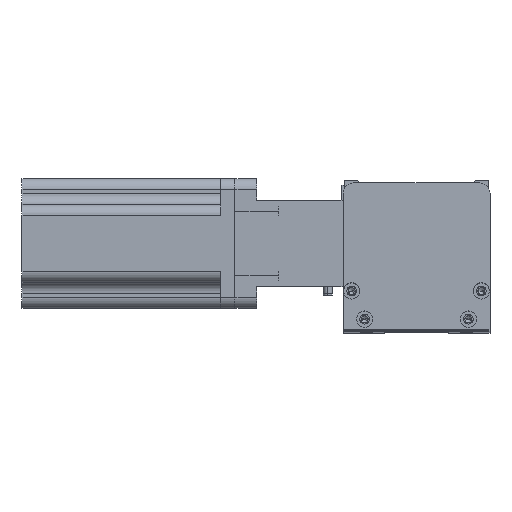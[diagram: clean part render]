
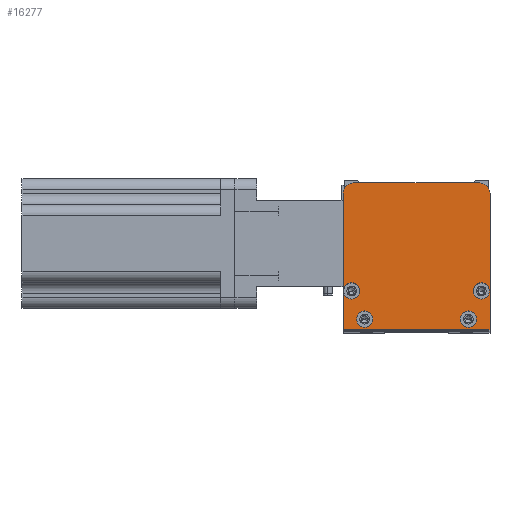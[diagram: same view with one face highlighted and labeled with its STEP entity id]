
A CAD part, top view. The second image highlights one B-rep face of the part: STEP entity #16277.
In plain terms, the highlighted planar face has unit normal (0, 0, 1) as drawn and (0, 0, -1) by its records, which use the part's own axes.
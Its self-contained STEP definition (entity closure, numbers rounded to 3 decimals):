
#8 = CARTESIAN_POINT ( 'NONE',  ( 4., 18., 0. ) ) ;
#253 = AXIS2_PLACEMENT_3D ( 'NONE', #4149, #19146, #6278 ) ;
#714 = EDGE_LOOP ( 'NONE', ( #2792, #15376 ) ) ;
#778 = EDGE_CURVE ( 'NONE', #7678, #22220, #8535, .T. ) ;
#788 = AXIS2_PLACEMENT_3D ( 'NONE', #27042, #13988, #1309 ) ;
#813 = CARTESIAN_POINT ( 'NONE',  ( 0., 0., 0. ) ) ;
#1039 = VERTEX_POINT ( 'NONE', #5300 ) ;
#1163 = EDGE_CURVE ( 'NONE', #13984, #2802, #1312, .T. ) ;
#1167 = DIRECTION ( 'NONE',  ( -1., 0., 0. ) ) ;
#1309 = DIRECTION ( 'NONE',  ( -1., 0., 0. ) ) ;
#1312 = CIRCLE ( 'NONE', #1623, 3.75 ) ;
#1418 = DIRECTION ( 'NONE',  ( 0., 1., 0. ) ) ;
#1452 = CARTESIAN_POINT ( 'NONE',  ( 58., 5., 0. ) ) ;
#1590 = FACE_BOUND ( 'NONE', #714, .T. ) ;
#1623 = AXIS2_PLACEMENT_3D ( 'NONE', #8, #2143, #27743 ) ;
#2143 = DIRECTION ( 'NONE',  ( 0., 0., -1. ) ) ;
#2510 = EDGE_CURVE ( 'NONE', #22455, #5451, #11979, .T. ) ;
#2792 = ORIENTED_EDGE ( 'NONE', *, *, #1163, .F. ) ;
#2802 = VERTEX_POINT ( 'NONE', #2913 ) ;
#2913 = CARTESIAN_POINT ( 'NONE',  ( 7.75, 18., 0. ) ) ;
#3536 = CARTESIAN_POINT ( 'NONE',  ( 64., 18., 0. ) ) ;
#3566 = DIRECTION ( 'NONE',  ( -1., 0., 0. ) ) ;
#3828 = DIRECTION ( 'NONE',  ( 0., 0., -1. ) ) ;
#4149 = CARTESIAN_POINT ( 'NONE',  ( 10., 5., 0. ) ) ;
#4254 = EDGE_CURVE ( 'NONE', #8312, #20879, #22979, .T. ) ;
#4369 = EDGE_LOOP ( 'NONE', ( #10772, #26475 ) ) ;
#4478 = CARTESIAN_POINT ( 'NONE',  ( 6.25, 5., 0. ) ) ;
#4826 = CARTESIAN_POINT ( 'NONE',  ( 68., 0., 0. ) ) ;
#4924 = LINE ( 'NONE', #813, #15601 ) ;
#5169 = VECTOR ( 'NONE', #20452, 1000. ) ;
#5300 = CARTESIAN_POINT ( 'NONE',  ( 5., 68., 0. ) ) ;
#5328 = EDGE_LOOP ( 'NONE', ( #13367, #5699 ) ) ;
#5418 = CARTESIAN_POINT ( 'NONE',  ( 68., 0., 0. ) ) ;
#5451 = VERTEX_POINT ( 'NONE', #18483 ) ;
#5577 = CARTESIAN_POINT ( 'NONE',  ( 0., 63., 0. ) ) ;
#5624 = AXIS2_PLACEMENT_3D ( 'NONE', #26877, #13840, #1167 ) ;
#5656 = DIRECTION ( 'NONE',  ( -1., 0., 0. ) ) ;
#5660 = ORIENTED_EDGE ( 'NONE', *, *, #11386, .F. ) ;
#5699 = ORIENTED_EDGE ( 'NONE', *, *, #8395, .F. ) ;
#6196 = CARTESIAN_POINT ( 'NONE',  ( 68., 68., 0. ) ) ;
#6278 = DIRECTION ( 'NONE',  ( -1., 0., 0. ) ) ;
#7411 = CIRCLE ( 'NONE', #788, 3.75 ) ;
#7678 = VERTEX_POINT ( 'NONE', #4478 ) ;
#8312 = VERTEX_POINT ( 'NONE', #22542 ) ;
#8383 = LINE ( 'NONE', #22783, #18526 ) ;
#8395 = EDGE_CURVE ( 'NONE', #19894, #24284, #20403, .T. ) ;
#8455 = EDGE_CURVE ( 'NONE', #8918, #1039, #11194, .T. ) ;
#8496 = FACE_BOUND ( 'NONE', #4369, .T. ) ;
#8535 = CIRCLE ( 'NONE', #12585, 3.75 ) ;
#8683 = ORIENTED_EDGE ( 'NONE', *, *, #4254, .F. ) ;
#8918 = VERTEX_POINT ( 'NONE', #5577 ) ;
#9344 = AXIS2_PLACEMENT_3D ( 'NONE', #12911, #12719, #11140 ) ;
#9875 = AXIS2_PLACEMENT_3D ( 'NONE', #16924, #12631, #27841 ) ;
#9977 = EDGE_CURVE ( 'NONE', #24156, #15329, #16882, .T. ) ;
#10015 = EDGE_LOOP ( 'NONE', ( #27047, #26303 ) ) ;
#10160 = ORIENTED_EDGE ( 'NONE', *, *, #8455, .T. ) ;
#10483 = CARTESIAN_POINT ( 'NONE',  ( 4., 18., 0. ) ) ;
#10485 = AXIS2_PLACEMENT_3D ( 'NONE', #3536, #18512, #5656 ) ;
#10767 = CARTESIAN_POINT ( 'NONE',  ( 13.75, 5., 0. ) ) ;
#10772 = ORIENTED_EDGE ( 'NONE', *, *, #9977, .F. ) ;
#11140 = DIRECTION ( 'NONE',  ( 1., 0., 0. ) ) ;
#11194 = CIRCLE ( 'NONE', #23264, 5. ) ;
#11386 = EDGE_CURVE ( 'NONE', #20879, #5451, #8383, .T. ) ;
#11481 = CARTESIAN_POINT ( 'NONE',  ( 63., 68., 0. ) ) ;
#11577 = VECTOR ( 'NONE', #25627, 1000. ) ;
#11979 = CIRCLE ( 'NONE', #9344, 5. ) ;
#12545 = ORIENTED_EDGE ( 'NONE', *, *, #2510, .T. ) ;
#12585 = AXIS2_PLACEMENT_3D ( 'NONE', #15752, #15648, #15428 ) ;
#12601 = DIRECTION ( 'NONE',  ( -1., 0., 0. ) ) ;
#12631 = DIRECTION ( 'NONE',  ( 0., 0., 1. ) ) ;
#12719 = DIRECTION ( 'NONE',  ( 0., 0., -1. ) ) ;
#12911 = CARTESIAN_POINT ( 'NONE',  ( 63., 63., 0. ) ) ;
#13367 = ORIENTED_EDGE ( 'NONE', *, *, #21075, .F. ) ;
#13840 = DIRECTION ( 'NONE',  ( 0., 0., -1. ) ) ;
#13957 = EDGE_CURVE ( 'NONE', #15329, #24156, #27592, .T. ) ;
#13984 = VERTEX_POINT ( 'NONE', #22965 ) ;
#13988 = DIRECTION ( 'NONE',  ( 0., 0., -1. ) ) ;
#15329 = VERTEX_POINT ( 'NONE', #24852 ) ;
#15376 = ORIENTED_EDGE ( 'NONE', *, *, #16868, .F. ) ;
#15428 = DIRECTION ( 'NONE',  ( -1., 0., 0. ) ) ;
#15601 = VECTOR ( 'NONE', #20185, 1000. ) ;
#15648 = DIRECTION ( 'NONE',  ( 0., 0., -1. ) ) ;
#15752 = CARTESIAN_POINT ( 'NONE',  ( 10., 5., 0. ) ) ;
#15800 = CARTESIAN_POINT ( 'NONE',  ( 61.75, 5., 0. ) ) ;
#16020 = AXIS2_PLACEMENT_3D ( 'NONE', #10483, #25657, #12601 ) ;
#16277 = ADVANCED_FACE ( 'NONE', ( #8496, #1590, #23737, #17953, #18636 ), #25685, .F. ) ;
#16357 = DIRECTION ( 'NONE',  ( 0., 0., -1. ) ) ;
#16616 = CARTESIAN_POINT ( 'NONE',  ( 5., 63., 0. ) ) ;
#16868 = EDGE_CURVE ( 'NONE', #2802, #13984, #20999, .T. ) ;
#16882 = CIRCLE ( 'NONE', #5624, 3.75 ) ;
#16924 = CARTESIAN_POINT ( 'NONE',  ( 0., 0., 0. ) ) ;
#17335 = LINE ( 'NONE', #6196, #11577 ) ;
#17953 = FACE_BOUND ( 'NONE', #5328, .T. ) ;
#18483 = CARTESIAN_POINT ( 'NONE',  ( 68., 63., 0. ) ) ;
#18512 = DIRECTION ( 'NONE',  ( 0., 0., -1. ) ) ;
#18526 = VECTOR ( 'NONE', #1418, 1000. ) ;
#18636 = FACE_OUTER_BOUND ( 'NONE', #22850, .T. ) ;
#18821 = DIRECTION ( 'NONE',  ( 1., 0., 0. ) ) ;
#19146 = DIRECTION ( 'NONE',  ( 0., 0., -1. ) ) ;
#19894 = VERTEX_POINT ( 'NONE', #15800 ) ;
#20185 = DIRECTION ( 'NONE',  ( 0., -1., 0. ) ) ;
#20388 = AXIS2_PLACEMENT_3D ( 'NONE', #1452, #16357, #3566 ) ;
#20403 = CIRCLE ( 'NONE', #20388, 3.75 ) ;
#20452 = DIRECTION ( 'NONE',  ( 1., 0., 0. ) ) ;
#20879 = VERTEX_POINT ( 'NONE', #4826 ) ;
#20999 = CIRCLE ( 'NONE', #16020, 3.75 ) ;
#21075 = EDGE_CURVE ( 'NONE', #24284, #19894, #7411, .T. ) ;
#21314 = EDGE_CURVE ( 'NONE', #22220, #7678, #24967, .T. ) ;
#22220 = VERTEX_POINT ( 'NONE', #10767 ) ;
#22455 = VERTEX_POINT ( 'NONE', #11481 ) ;
#22542 = CARTESIAN_POINT ( 'NONE',  ( 0., 0., 0. ) ) ;
#22783 = CARTESIAN_POINT ( 'NONE',  ( 68., 0., 0. ) ) ;
#22850 = EDGE_LOOP ( 'NONE', ( #23955, #10160, #24199, #12545, #5660, #8683 ) ) ;
#22965 = CARTESIAN_POINT ( 'NONE',  ( 0.25, 18., 0. ) ) ;
#22979 = LINE ( 'NONE', #5418, #5169 ) ;
#23264 = AXIS2_PLACEMENT_3D ( 'NONE', #16616, #3828, #18821 ) ;
#23518 = EDGE_CURVE ( 'NONE', #22455, #1039, #17335, .T. ) ;
#23737 = FACE_BOUND ( 'NONE', #10015, .T. ) ;
#23955 = ORIENTED_EDGE ( 'NONE', *, *, #24359, .F. ) ;
#24156 = VERTEX_POINT ( 'NONE', #26044 ) ;
#24169 = CARTESIAN_POINT ( 'NONE',  ( 54.25, 5., 0. ) ) ;
#24199 = ORIENTED_EDGE ( 'NONE', *, *, #23518, .F. ) ;
#24284 = VERTEX_POINT ( 'NONE', #24169 ) ;
#24359 = EDGE_CURVE ( 'NONE', #8918, #8312, #4924, .T. ) ;
#24852 = CARTESIAN_POINT ( 'NONE',  ( 67.75, 18., 0. ) ) ;
#24967 = CIRCLE ( 'NONE', #253, 3.75 ) ;
#25627 = DIRECTION ( 'NONE',  ( -1., 0., 0. ) ) ;
#25657 = DIRECTION ( 'NONE',  ( 0., 0., -1. ) ) ;
#25685 = PLANE ( 'NONE',  #9875 ) ;
#26044 = CARTESIAN_POINT ( 'NONE',  ( 60.25, 18., 0. ) ) ;
#26303 = ORIENTED_EDGE ( 'NONE', *, *, #21314, .F. ) ;
#26475 = ORIENTED_EDGE ( 'NONE', *, *, #13957, .F. ) ;
#26877 = CARTESIAN_POINT ( 'NONE',  ( 64., 18., 0. ) ) ;
#27042 = CARTESIAN_POINT ( 'NONE',  ( 58., 5., 0. ) ) ;
#27047 = ORIENTED_EDGE ( 'NONE', *, *, #778, .F. ) ;
#27592 = CIRCLE ( 'NONE', #10485, 3.75 ) ;
#27743 = DIRECTION ( 'NONE',  ( -1., 0., 0. ) ) ;
#27841 = DIRECTION ( 'NONE',  ( 1., 0., 0. ) ) ;
